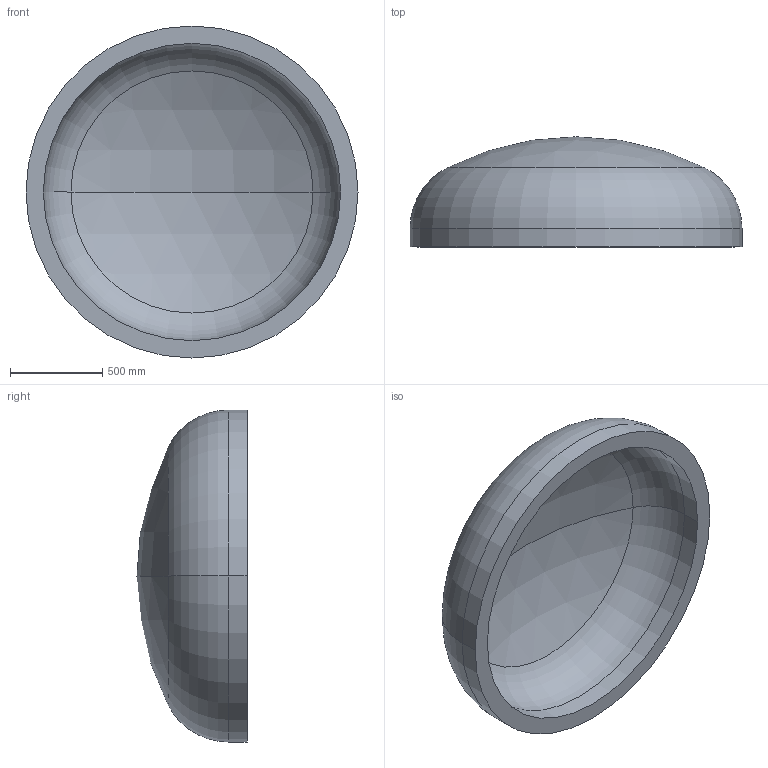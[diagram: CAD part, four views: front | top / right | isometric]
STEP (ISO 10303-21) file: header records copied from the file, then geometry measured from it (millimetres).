
FILE_DESCRIPTION (( 'STEP AP203' ), '1' );
FILE_NAME ('DIN 28013 Korbbogenform_-_Boden DIN 28013 - 1800 x 100 - I - s=94.step', '2016-07-01T12:43:54', ( '' ), ( '' ), 'SwSTEP 2.0', 'SolidWorks 2013', '' );
FILE_SCHEMA (( 'CONFIG_CONTROL_DESIGN' ));
Length unit declared in the file: millimetre
Products named in the file (1): DIN 28013 Korbbogenform_-_Boden DIN 28013 - 1800 x 100 - I - s=94
Bounding box: 1800 x 597.05 x 1800 mm (x, y, z)
Volume: 359700216.4 mm3; surface area: 8175498.5 mm2
Topology: 1 solids, 1 shells, 13 faces, 24 edges, 14 vertices
Faces by surface type: torus 4, cylinder 4, sphere 4, plane 1
Entity records: 407 total; most frequent: DIRECTION 72, CARTESIAN_POINT 52, ORIENTED_EDGE 48, AXIS2_PLACEMENT_3D 34, EDGE_CURVE 24, CIRCLE 20, EDGE_LOOP 14, VERTEX_POINT 14
